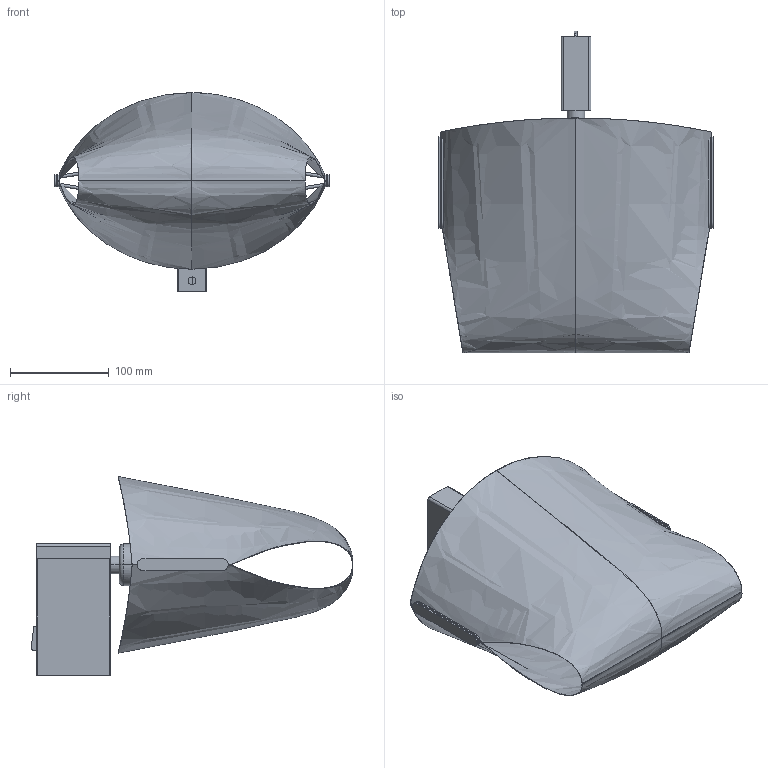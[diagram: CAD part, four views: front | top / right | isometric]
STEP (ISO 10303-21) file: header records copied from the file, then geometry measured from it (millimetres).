
FILE_DESCRIPTION(/* description */ (''),/* implementation_level */ '2;1');
FILE_NAME(/* name */ '23004-57.stp',/* time_stamp */ '2024-07-04T12:25:24+02:00',/* author */ ('RenataManzini'),/* organization */ (''),/* preprocessor_version */ 'ST-DEVELOPER v20',/* originating_system */ 'AutoCAD Mechanical',/* authorisation */ '');
FILE_SCHEMA (('AUTOMOTIVE_DESIGN { 1 0 10303 214 3 1 1 }'));
Length unit declared in the file: millimetre
Products named in the file (2): Product; luang_aplique - 29891 ORA LED Black spotlight-647080-_3D_
Assembly tree (1 placements, depth 2):
  Product
    luang_aplique - 29891 ORA LED Black spotlight-647080-_3D_
Bounding box: 277.03 x 325.04 x 200.83 mm (x, y, z)
Volume: 143939.2 mm3; surface area: 389363.9 mm2
Topology: 9 solids, 10 shells, 151 faces, 358 edges, 225 vertices
Faces by surface type: plane 77, cylinder 48, bspline 20, cone 4, torus 2
Entity records: 6848 total; most frequent: CARTESIAN_POINT 3383, ORIENTED_EDGE 690, DIRECTION 673, EDGE_CURVE 355, AXIS2_PLACEMENT_3D 233, VERTEX_POINT 220, LINE 207, VECTOR 207
